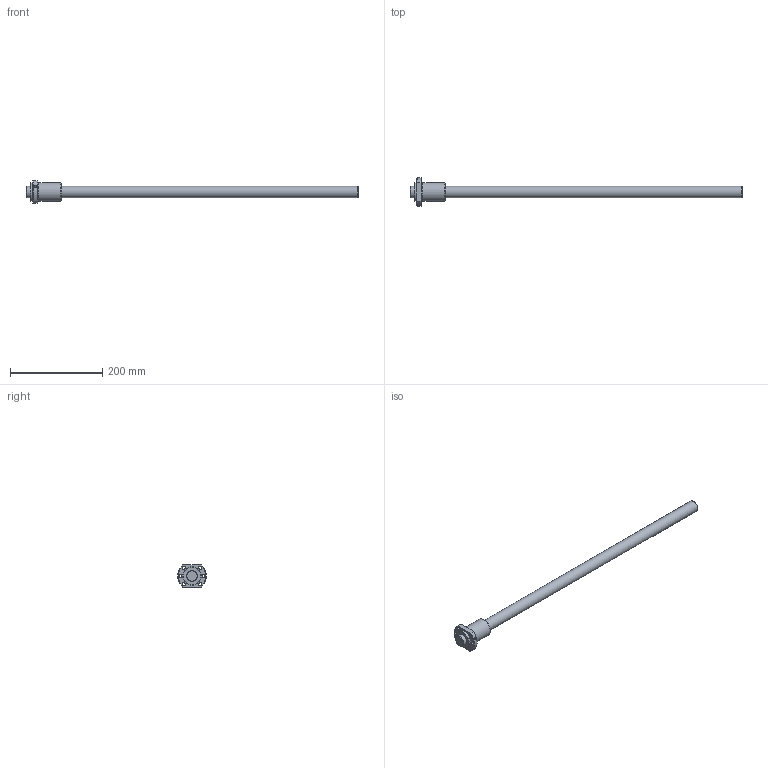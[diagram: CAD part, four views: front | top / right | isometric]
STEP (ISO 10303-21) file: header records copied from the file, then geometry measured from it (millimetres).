
FILE_DESCRIPTION(/* description */ ('STEP AP214'),/* implementation_level */ '2;1');
FILE_NAME(/* name */ 'EPB2505-6RRG0+720LC0(634G000)_rev',/* time_stamp */ '2023-08-03T13:25:29+02:00',/* author */ ('License CC BY-ND 4.0'),/* organization */ ('CADENAS'),/* preprocessor_version */ 'ST-DEVELOPER v19.3',/* originating_system */ 'PARTsolutions',/* authorisation */ ' ');
FILE_SCHEMA (('AUTOMOTIVE_DESIGN {1 0 10303 214 3 1 1}'));
Length unit declared in the file: millimetre
Products named in the file (3): EPB2505-6RRG0+720LC0(634G000)_rev; EPB 2505-6RR Nut1; EPB 2505-66340 Shaft1
Assembly tree (2 placements, depth 2):
  EPB2505-6RRG0+720LC0(634G000)_rev
    EPB 2505-6RR Nut1
    EPB 2505-66340 Shaft1
Bounding box: 720 x 61.8 x 48 mm (x, y, z)
Volume: 414702.7 mm3; surface area: 76930 mm2
Topology: 2 solids, 2 shells, 32 faces, 72 edges, 47 vertices
Faces by surface type: cylinder 14, cone 9, plane 9
Full cylindrical faces by diameter (mm): 4.917 x1, 6.6 x6, 25 x2, 37.6 x1, 40 x2
Entity records: 935 total; most frequent: CARTESIAN_POINT 177, DIRECTION 148, ORIENTED_EDGE 106, AXIS2_PLACEMENT_3D 70, EDGE_LOOP 68, FACE_BOUND 68, EDGE_CURVE 53, VERTEX_POINT 45
